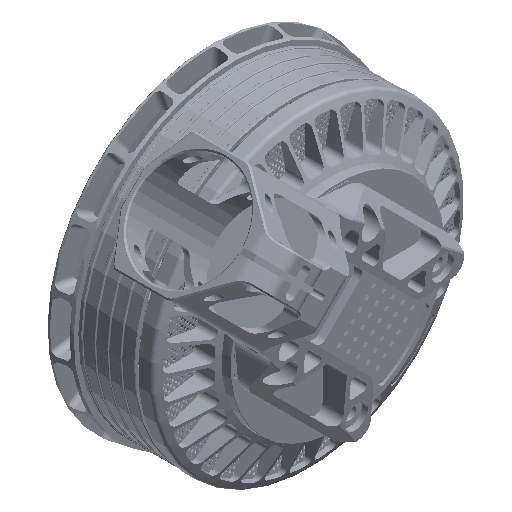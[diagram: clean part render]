
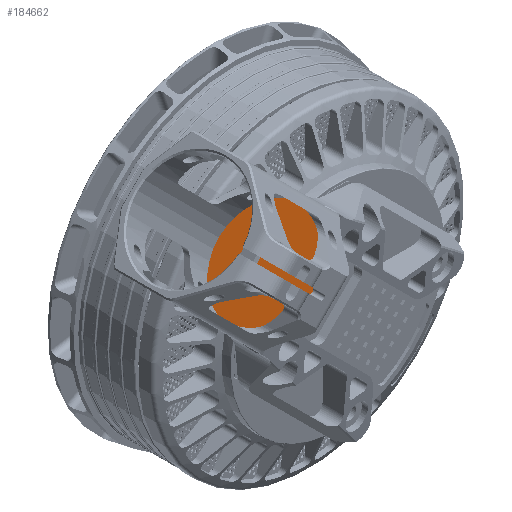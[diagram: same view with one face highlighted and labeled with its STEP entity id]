
A CAD part, isometric view. The second image highlights one B-rep face of the part: STEP entity #184662.
In plain terms, the highlighted planar face has unit normal (-0.707, 0, 0.707) as drawn and (0, 0, -1) by its records, which use the part's own axes.
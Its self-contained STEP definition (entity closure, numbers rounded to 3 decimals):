
#2252 = CARTESIAN_POINT ( 'NONE',  ( 0., 11., -22.5 ) ) ;
#3736 = VERTEX_POINT ( 'NONE', #137052 ) ;
#7240 = LINE ( 'NONE', #225919, #22847 ) ;
#7825 = EDGE_CURVE ( 'NONE', #55683, #196377, #186504, .T. ) ;
#9994 = VECTOR ( 'NONE', #58050, 1000. ) ;
#11695 = EDGE_LOOP ( 'NONE', ( #156185, #44807, #151453, #29217, #133118, #200729, #43598, #179277 ) ) ;
#15437 = CARTESIAN_POINT ( 'NONE',  ( 0., 22., -22.5 ) ) ;
#17993 = DIRECTION ( 'NONE',  ( 0., 0., -1. ) ) ;
#19054 = DIRECTION ( 'NONE',  ( -1., 0., 0. ) ) ;
#22847 = VECTOR ( 'NONE', #208821, 1000. ) ;
#28337 = VERTEX_POINT ( 'NONE', #159503 ) ;
#28555 = AXIS2_PLACEMENT_3D ( 'NONE', #73834, #148350, #203290 ) ;
#29132 = DIRECTION ( 'NONE',  ( -1., 0., 0. ) ) ;
#29217 = ORIENTED_EDGE ( 'NONE', *, *, #47417, .T. ) ;
#36217 = DIRECTION ( 'NONE',  ( -1., 0., 0. ) ) ;
#38087 = DIRECTION ( 'NONE',  ( -1., 0., 0. ) ) ;
#39952 = CARTESIAN_POINT ( 'NONE',  ( 0., 22., -22.5 ) ) ;
#41333 = LINE ( 'NONE', #2252, #124389 ) ;
#43598 = ORIENTED_EDGE ( 'NONE', *, *, #164245, .T. ) ;
#44807 = ORIENTED_EDGE ( 'NONE', *, *, #189877, .T. ) ;
#44911 = VERTEX_POINT ( 'NONE', #94040 ) ;
#47417 = EDGE_CURVE ( 'NONE', #240270, #106188, #7240, .T. ) ;
#49076 = DIRECTION ( 'NONE',  ( -1., 0., 0. ) ) ;
#49260 = CARTESIAN_POINT ( 'NONE',  ( 0., 17.5, -22.5 ) ) ;
#51689 = AXIS2_PLACEMENT_3D ( 'NONE', #92425, #190023, #36217 ) ;
#55683 = VERTEX_POINT ( 'NONE', #217028 ) ;
#57300 = CARTESIAN_POINT ( 'NONE',  ( 20., 22., -22.5 ) ) ;
#58050 = DIRECTION ( 'NONE',  ( 0., -1., 0. ) ) ;
#58866 = DIRECTION ( 'NONE',  ( 0., 0., -1. ) ) ;
#59801 = CIRCLE ( 'NONE', #28555, 2. ) ;
#71441 = VERTEX_POINT ( 'NONE', #128814 ) ;
#72128 = CIRCLE ( 'NONE', #208584, 20. ) ;
#72207 = DIRECTION ( 'NONE',  ( 0., 0., 1. ) ) ;
#73834 = CARTESIAN_POINT ( 'NONE',  ( 4.5, 13., -22.5 ) ) ;
#77153 = PLANE ( 'NONE',  #137890 ) ;
#78634 = EDGE_CURVE ( 'NONE', #71441, #240270, #59801, .T. ) ;
#79169 = DIRECTION ( 'NONE',  ( 1., 0., 0. ) ) ;
#80592 = ORIENTED_EDGE ( 'NONE', *, *, #171051, .T. ) ;
#81705 = ORIENTED_EDGE ( 'NONE', *, *, #231345, .T. ) ;
#85674 = CARTESIAN_POINT ( 'NONE',  ( -4.5, 15.5, -22.5 ) ) ;
#86072 = CARTESIAN_POINT ( 'NONE',  ( -4.5, 17.5, -22.5 ) ) ;
#90021 = DIRECTION ( 'NONE',  ( 0., 0., -1. ) ) ;
#92425 = CARTESIAN_POINT ( 'NONE',  ( -4.5, 13., -22.5 ) ) ;
#93114 = CARTESIAN_POINT ( 'NONE',  ( 0., 22., -22.5 ) ) ;
#94040 = CARTESIAN_POINT ( 'NONE',  ( -20., 22., -22.5 ) ) ;
#94953 = DIRECTION ( 'NONE',  ( -1., 0., 0. ) ) ;
#98741 = AXIS2_PLACEMENT_3D ( 'NONE', #85674, #72207, #49076 ) ;
#102703 = CARTESIAN_POINT ( 'NONE',  ( 6.5, 13., -22.5 ) ) ;
#106188 = VERTEX_POINT ( 'NONE', #121498 ) ;
#116851 = AXIS2_PLACEMENT_3D ( 'NONE', #214789, #139129, #29132 ) ;
#121498 = CARTESIAN_POINT ( 'NONE',  ( 6.5, 15.5, -22.5 ) ) ;
#122402 = VERTEX_POINT ( 'NONE', #57300 ) ;
#124389 = VECTOR ( 'NONE', #79169, 1000. ) ;
#124932 = DIRECTION ( 'NONE',  ( -1., 0., 0. ) ) ;
#128814 = CARTESIAN_POINT ( 'NONE',  ( 4.5, 11., -22.5 ) ) ;
#133118 = ORIENTED_EDGE ( 'NONE', *, *, #161671, .T. ) ;
#133771 = CARTESIAN_POINT ( 'NONE',  ( -6.5, 22., -22.5 ) ) ;
#137052 = CARTESIAN_POINT ( 'NONE',  ( -4.5, 11., -22.5 ) ) ;
#137634 = CIRCLE ( 'NONE', #51689, 2. ) ;
#137890 = AXIS2_PLACEMENT_3D ( 'NONE', #93114, #58866, #38087 ) ;
#139129 = DIRECTION ( 'NONE',  ( 0., 0., 1. ) ) ;
#148350 = DIRECTION ( 'NONE',  ( 0., 0., 1. ) ) ;
#151453 = ORIENTED_EDGE ( 'NONE', *, *, #78634, .T. ) ;
#152185 = EDGE_CURVE ( 'NONE', #223090, #3736, #137634, .T. ) ;
#156185 = ORIENTED_EDGE ( 'NONE', *, *, #152185, .T. ) ;
#159503 = CARTESIAN_POINT ( 'NONE',  ( -6.5, 15.5, -22.5 ) ) ;
#161671 = EDGE_CURVE ( 'NONE', #106188, #55683, #187111, .T. ) ;
#164245 = EDGE_CURVE ( 'NONE', #196377, #28337, #196318, .T. ) ;
#166420 = CARTESIAN_POINT ( 'NONE',  ( -6.5, 13., -22.5 ) ) ;
#166426 = FACE_BOUND ( 'NONE', #11695, .T. ) ;
#171051 = EDGE_CURVE ( 'NONE', #122402, #44911, #171892, .T. ) ;
#171503 = VECTOR ( 'NONE', #124932, 1000. ) ;
#171892 = CIRCLE ( 'NONE', #218828, 20. ) ;
#179277 = ORIENTED_EDGE ( 'NONE', *, *, #212357, .T. ) ;
#184662 = ADVANCED_FACE ( 'NONE', ( #207824, #166426 ), #77153, .T. ) ;
#186504 = LINE ( 'NONE', #49260, #171503 ) ;
#187111 = CIRCLE ( 'NONE', #116851, 2. ) ;
#187538 = LINE ( 'NONE', #133771, #9994 ) ;
#189877 = EDGE_CURVE ( 'NONE', #3736, #71441, #41333, .T. ) ;
#190023 = DIRECTION ( 'NONE',  ( 0., 0., 1. ) ) ;
#193093 = EDGE_LOOP ( 'NONE', ( #81705, #80592 ) ) ;
#196318 = CIRCLE ( 'NONE', #98741, 2. ) ;
#196377 = VERTEX_POINT ( 'NONE', #86072 ) ;
#200729 = ORIENTED_EDGE ( 'NONE', *, *, #7825, .T. ) ;
#203290 = DIRECTION ( 'NONE',  ( -1., 0., 0. ) ) ;
#207824 = FACE_OUTER_BOUND ( 'NONE', #193093, .T. ) ;
#208584 = AXIS2_PLACEMENT_3D ( 'NONE', #15437, #90021, #19054 ) ;
#208821 = DIRECTION ( 'NONE',  ( 0., 1., 0. ) ) ;
#212357 = EDGE_CURVE ( 'NONE', #28337, #223090, #187538, .T. ) ;
#214789 = CARTESIAN_POINT ( 'NONE',  ( 4.5, 15.5, -22.5 ) ) ;
#217028 = CARTESIAN_POINT ( 'NONE',  ( 4.5, 17.5, -22.5 ) ) ;
#218828 = AXIS2_PLACEMENT_3D ( 'NONE', #39952, #17993, #94953 ) ;
#223090 = VERTEX_POINT ( 'NONE', #166420 ) ;
#225919 = CARTESIAN_POINT ( 'NONE',  ( 6.5, 22., -22.5 ) ) ;
#231345 = EDGE_CURVE ( 'NONE', #44911, #122402, #72128, .T. ) ;
#240270 = VERTEX_POINT ( 'NONE', #102703 ) ;
